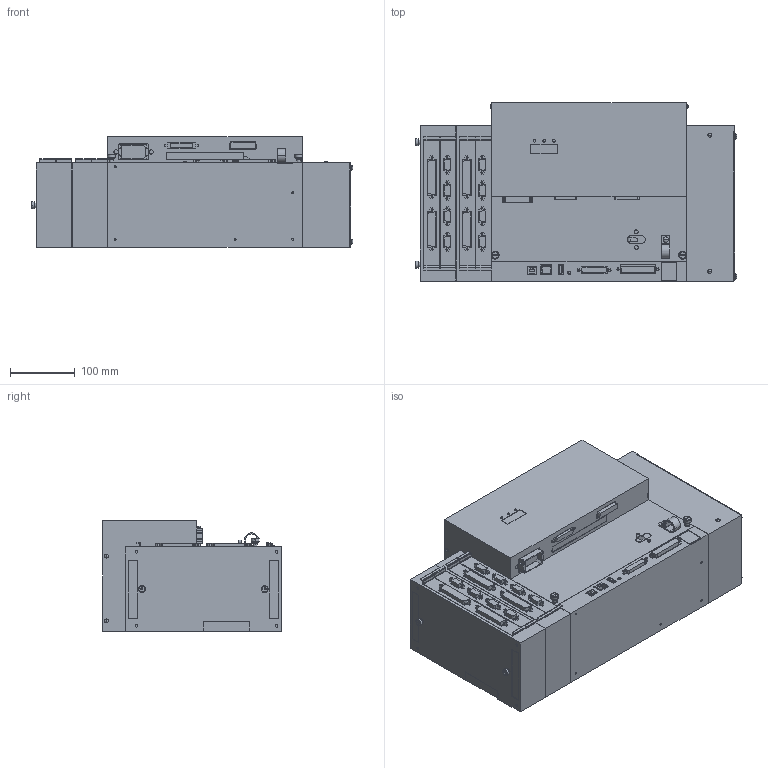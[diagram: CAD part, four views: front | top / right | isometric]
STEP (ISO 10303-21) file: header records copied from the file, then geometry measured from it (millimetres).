
FILE_DESCRIPTION( ( '' ), '1' );
FILE_NAME( '//expscmdclustefs.cadenas.external/client_exchange/iodir/jobs/output/wkb51549338_no0/STEP/RC180_AAU_Option2_2_03.stp', '2012-11-23T14:11:53', ( '' ), ( '' ), ' ', ' ', ' ' );
FILE_SCHEMA( ( 'CONFIG_CONTROL_DESIGN' ) );
Length unit declared in the file: millimetre
Products named in the file (3): 1; 2; 3
Bounding box: 495.87 x 275 x 170.5 mm (x, y, z)
Volume: 18283144 mm3; surface area: 708273.7 mm2
Topology: 3 solids, 3 shells, 1068 faces, 2655 edges, 1749 vertices
Faces by surface type: plane 726, cylinder 304, torus 22, cone 16
Entity records: 31637 total; most frequent: CARTESIAN_POINT 5469, DIRECTION 5427, ORIENTED_EDGE 5266, EDGE_CURVE 2633, LINE 1965, VECTOR 1965, VERTEX_POINT 1749, AXIS2_PLACEMENT_3D 1731
